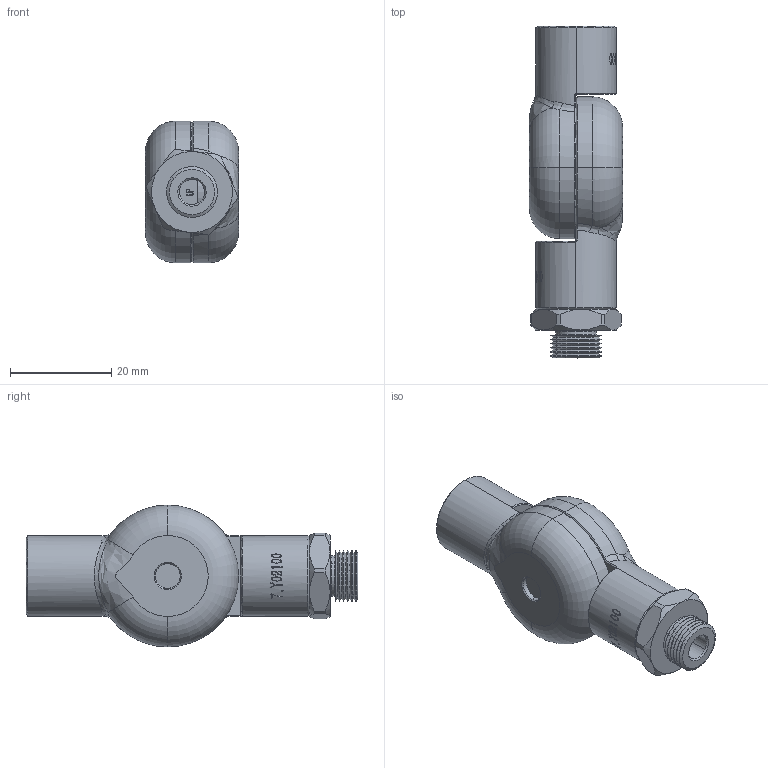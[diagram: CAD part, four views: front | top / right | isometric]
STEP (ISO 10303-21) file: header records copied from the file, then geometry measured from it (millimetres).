
FILE_DESCRIPTION (( 'STEP AP203' ), '1' );
FILE_NAME ('VM-14F14F.STEP', '2024-10-10T05:24:11', ( '' ), ( '' ), 'SwSTEP 2.0', 'SolidWorks 2022', '' );
FILE_SCHEMA (( 'CONFIG_CONTROL_DESIGN' ));
Products named in the file (1): VM-14F14F
Bounding box: 18.4 x 65.6 x 28 mm (x, y, z)
Volume: 12333.6 mm3; surface area: 8338.5 mm2
Topology: 1 solids, 4 shells, 651 faces, 1673 edges, 1073 vertices
Faces by surface type: bspline 298, plane 175, cylinder 86, cone 66, torus 26
Entity records: 39606 total; most frequent: CARTESIAN_POINT 26114, ORIENTED_EDGE 3342, DIRECTION 1785, EDGE_CURVE 1671, VERTEX_POINT 1073, B_SPLINE_CURVE_WITH_KNOTS 864, EDGE_LOOP 706, FACE_OUTER_BOUND 651
